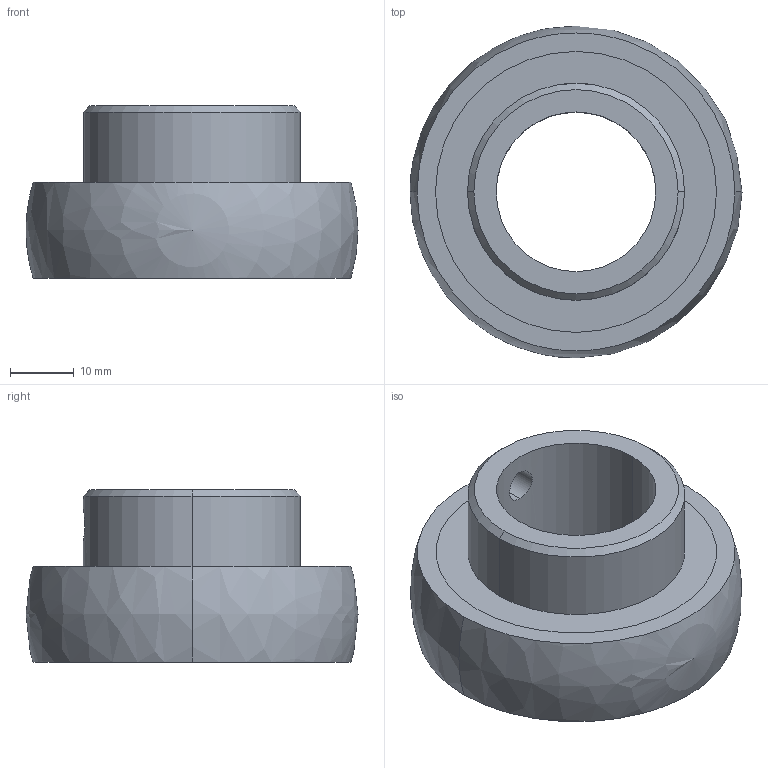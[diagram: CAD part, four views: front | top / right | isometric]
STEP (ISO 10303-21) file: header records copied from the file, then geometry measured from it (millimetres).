
FILE_DESCRIPTION (( 'STEP AP203' ), '1' );
FILE_NAME ('084.802.034.STEP', '2013-01-29T12:21:37', ( 'Alusic' ), ( 'Alusic' ), 'SwSTEP 2.0', 'SolidWorks 2011', '' );
FILE_SCHEMA (( 'CONFIG_CONTROL_DESIGN' ));
Length unit declared in the file: millimetre
Products named in the file (1): 084.802.034
Bounding box: 52 x 52 x 27 mm (x, y, z)
Volume: 24701.1 mm3; surface area: 17281.8 mm2
Topology: 5 solids, 5 shells, 42 faces, 91 edges, 55 vertices
Faces by surface type: cylinder 20, torus 10, plane 8, sphere 2, cone 2
Entity records: 1327 total; most frequent: CARTESIAN_POINT 301, DIRECTION 228, ORIENTED_EDGE 172, AXIS2_PLACEMENT_3D 103, EDGE_CURVE 86, CIRCLE 60, VERTEX_POINT 52, EDGE_LOOP 52
